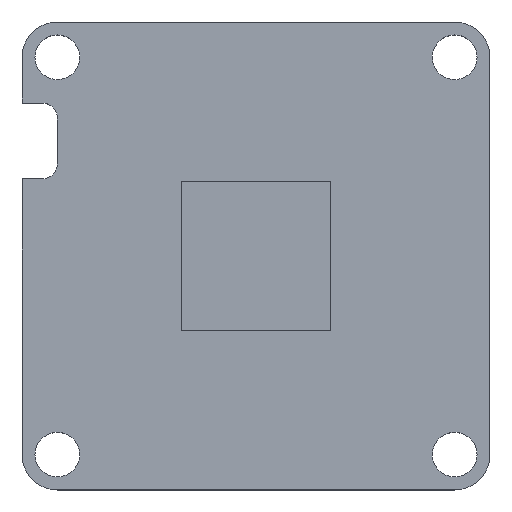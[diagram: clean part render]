
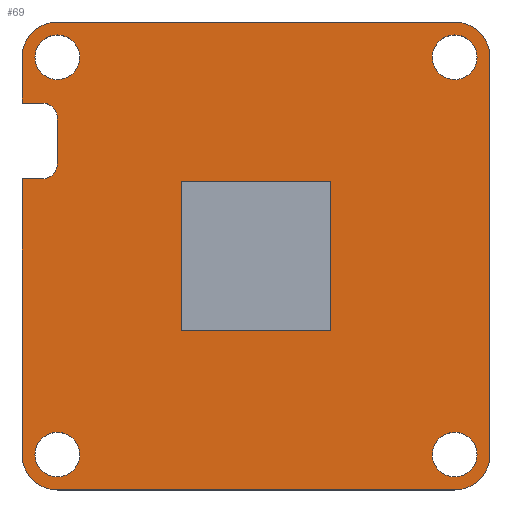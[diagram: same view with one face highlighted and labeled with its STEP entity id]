
A CAD part, top view. The second image highlights one B-rep face of the part: STEP entity #69.
In plain terms, the highlighted planar face has unit normal (0, 0, 1).
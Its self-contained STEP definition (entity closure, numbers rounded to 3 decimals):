
#69=ADVANCED_FACE('',(#149,#150,#151,#152,#153,#107),#407,.T.);
#107=FACE_OUTER_BOUND('',#165,.F.);
#149=FACE_BOUND('',#160,.F.);
#150=FACE_BOUND('',#161,.F.);
#151=FACE_BOUND('',#162,.F.);
#152=FACE_BOUND('',#163,.F.);
#153=FACE_BOUND('',#164,.F.);
#160=EDGE_LOOP('',(#232,#233));
#161=EDGE_LOOP('',(#234,#235));
#162=EDGE_LOOP('',(#236,#237));
#163=EDGE_LOOP('',(#238,#239));
#164=EDGE_LOOP('',(#240,#241,#242,#243));
#165=EDGE_LOOP('',(#244,#245,#246,#247,#248,#249,#250,#251,#252,#253,#254,
#255,#256,#257));
#232=ORIENTED_EDGE('',*,*,#473,.T.);
#233=ORIENTED_EDGE('',*,*,#471,.T.);
#234=ORIENTED_EDGE('',*,*,#481,.T.);
#235=ORIENTED_EDGE('',*,*,#479,.T.);
#236=ORIENTED_EDGE('',*,*,#485,.T.);
#237=ORIENTED_EDGE('',*,*,#483,.T.);
#238=ORIENTED_EDGE('',*,*,#477,.T.);
#239=ORIENTED_EDGE('',*,*,#475,.T.);
#240=ORIENTED_EDGE('',*,*,#469,.T.);
#241=ORIENTED_EDGE('',*,*,#468,.T.);
#242=ORIENTED_EDGE('',*,*,#467,.T.);
#243=ORIENTED_EDGE('',*,*,#466,.T.);
#244=ORIENTED_EDGE('',*,*,#500,.T.);
#245=ORIENTED_EDGE('',*,*,#513,.F.);
#246=ORIENTED_EDGE('',*,*,#512,.T.);
#247=ORIENTED_EDGE('',*,*,#511,.F.);
#248=ORIENTED_EDGE('',*,*,#510,.T.);
#249=ORIENTED_EDGE('',*,*,#509,.T.);
#250=ORIENTED_EDGE('',*,*,#508,.T.);
#251=ORIENTED_EDGE('',*,*,#507,.T.);
#252=ORIENTED_EDGE('',*,*,#506,.T.);
#253=ORIENTED_EDGE('',*,*,#505,.T.);
#254=ORIENTED_EDGE('',*,*,#504,.T.);
#255=ORIENTED_EDGE('',*,*,#503,.F.);
#256=ORIENTED_EDGE('',*,*,#502,.T.);
#257=ORIENTED_EDGE('',*,*,#501,.F.);
#407=PLANE('',#807);
#431=CIRCLE('',#779,1.5);
#433=CIRCLE('',#781,1.5);
#435=CIRCLE('',#783,1.5);
#437=CIRCLE('',#785,1.5);
#439=CIRCLE('',#787,1.5);
#441=CIRCLE('',#789,1.5);
#443=CIRCLE('',#791,1.5);
#445=CIRCLE('',#793,1.5);
#452=CIRCLE('',#800,2.37);
#453=CIRCLE('',#801,2.37);
#454=CIRCLE('',#802,1.);
#455=CIRCLE('',#803,1.);
#456=CIRCLE('',#804,2.37);
#457=CIRCLE('',#805,2.37);
#466=EDGE_CURVE('',#767,#766,#568,.T.);
#467=EDGE_CURVE('',#765,#767,#569,.T.);
#468=EDGE_CURVE('',#764,#765,#570,.T.);
#469=EDGE_CURVE('',#766,#764,#571,.T.);
#471=EDGE_CURVE('',#761,#760,#431,.T.);
#473=EDGE_CURVE('',#760,#761,#433,.T.);
#475=EDGE_CURVE('',#757,#756,#435,.T.);
#477=EDGE_CURVE('',#756,#757,#437,.T.);
#479=EDGE_CURVE('',#753,#752,#439,.T.);
#481=EDGE_CURVE('',#752,#753,#441,.T.);
#483=EDGE_CURVE('',#749,#748,#443,.T.);
#485=EDGE_CURVE('',#748,#749,#445,.T.);
#500=EDGE_CURVE('',#733,#732,#580,.T.);
#501=EDGE_CURVE('',#733,#731,#452,.T.);
#502=EDGE_CURVE('',#730,#731,#581,.T.);
#503=EDGE_CURVE('',#730,#729,#453,.T.);
#504=EDGE_CURVE('',#728,#729,#582,.T.);
#505=EDGE_CURVE('',#727,#728,#583,.T.);
#506=EDGE_CURVE('',#726,#727,#454,.T.);
#507=EDGE_CURVE('',#725,#726,#584,.T.);
#508=EDGE_CURVE('',#724,#725,#455,.T.);
#509=EDGE_CURVE('',#723,#724,#585,.T.);
#510=EDGE_CURVE('',#722,#723,#586,.T.);
#511=EDGE_CURVE('',#722,#721,#456,.T.);
#512=EDGE_CURVE('',#720,#721,#587,.T.);
#513=EDGE_CURVE('',#720,#732,#457,.T.);
#568=LINE('',#1132,#642);
#569=LINE('',#1133,#643);
#570=LINE('',#1134,#644);
#571=LINE('',#1135,#645);
#580=LINE('',#1166,#654);
#581=LINE('',#1168,#655);
#582=LINE('',#1170,#656);
#583=LINE('',#1171,#657);
#584=LINE('',#1173,#658);
#585=LINE('',#1175,#659);
#586=LINE('',#1176,#660);
#587=LINE('',#1178,#661);
#642=VECTOR('',#855,10.);
#643=VECTOR('',#856,10.);
#644=VECTOR('',#857,10.);
#645=VECTOR('',#858,10.);
#654=VECTOR('',#911,26.66);
#655=VECTOR('',#914,26.66);
#656=VECTOR('',#917,3.07);
#657=VECTOR('',#918,1.37);
#658=VECTOR('',#921,3.08);
#659=VECTOR('',#924,1.37);
#660=VECTOR('',#925,18.51);
#661=VECTOR('',#928,26.66);
#720=VERTEX_POINT('',#1068);
#721=VERTEX_POINT('',#1069);
#722=VERTEX_POINT('',#1070);
#723=VERTEX_POINT('',#1071);
#724=VERTEX_POINT('',#1072);
#725=VERTEX_POINT('',#1073);
#726=VERTEX_POINT('',#1074);
#727=VERTEX_POINT('',#1075);
#728=VERTEX_POINT('',#1076);
#729=VERTEX_POINT('',#1077);
#730=VERTEX_POINT('',#1078);
#731=VERTEX_POINT('',#1079);
#732=VERTEX_POINT('',#1080);
#733=VERTEX_POINT('',#1081);
#748=VERTEX_POINT('',#1096);
#749=VERTEX_POINT('',#1097);
#752=VERTEX_POINT('',#1100);
#753=VERTEX_POINT('',#1101);
#756=VERTEX_POINT('',#1104);
#757=VERTEX_POINT('',#1105);
#760=VERTEX_POINT('',#1108);
#761=VERTEX_POINT('',#1109);
#764=VERTEX_POINT('',#1112);
#765=VERTEX_POINT('',#1113);
#766=VERTEX_POINT('',#1114);
#767=VERTEX_POINT('',#1115);
#779=AXIS2_PLACEMENT_3D('',#1137,#861,#862);
#781=AXIS2_PLACEMENT_3D('',#1139,#865,#866);
#783=AXIS2_PLACEMENT_3D('',#1141,#869,#870);
#785=AXIS2_PLACEMENT_3D('',#1143,#873,#874);
#787=AXIS2_PLACEMENT_3D('',#1145,#877,#878);
#789=AXIS2_PLACEMENT_3D('',#1147,#881,#882);
#791=AXIS2_PLACEMENT_3D('',#1149,#885,#886);
#793=AXIS2_PLACEMENT_3D('',#1151,#889,#890);
#800=AXIS2_PLACEMENT_3D('',#1167,#912,#913);
#801=AXIS2_PLACEMENT_3D('',#1169,#915,#916);
#802=AXIS2_PLACEMENT_3D('',#1172,#919,#920);
#803=AXIS2_PLACEMENT_3D('',#1174,#922,#923);
#804=AXIS2_PLACEMENT_3D('',#1177,#926,#927);
#805=AXIS2_PLACEMENT_3D('',#1179,#929,#930);
#807=AXIS2_PLACEMENT_3D('',#1227,#979,#980);
#855=DIRECTION('',(1.,0.,0.));
#856=DIRECTION('',(0.,-1.,0.));
#857=DIRECTION('',(-1.,0.,0.));
#858=DIRECTION('',(0.,1.,0.));
#861=DIRECTION('',(0.,0.,1.));
#862=DIRECTION('',(1.,0.,0.));
#865=DIRECTION('',(0.,0.,1.));
#866=DIRECTION('',(-1.,0.,0.));
#869=DIRECTION('',(0.,0.,1.));
#870=DIRECTION('',(1.,0.,0.));
#873=DIRECTION('',(0.,0.,1.));
#874=DIRECTION('',(-1.,0.,0.));
#877=DIRECTION('',(0.,0.,1.));
#878=DIRECTION('',(1.,0.,0.));
#881=DIRECTION('',(0.,0.,1.));
#882=DIRECTION('',(-1.,0.,0.));
#885=DIRECTION('',(0.,0.,1.));
#886=DIRECTION('',(1.,0.,0.));
#889=DIRECTION('',(0.,0.,1.));
#890=DIRECTION('',(-1.,0.,0.));
#911=DIRECTION('',(0.,-1.,0.));
#912=DIRECTION('',(0.,0.,1.));
#913=DIRECTION('',(1.,0.,0.));
#914=DIRECTION('',(1.,0.,0.));
#915=DIRECTION('',(0.,0.,1.));
#916=DIRECTION('',(0.,1.,0.));
#917=DIRECTION('',(0.,1.,0.));
#918=DIRECTION('',(-1.,0.,0.));
#919=DIRECTION('',(0.,0.,1.));
#920=DIRECTION('',(1.,0.,0.));
#921=DIRECTION('',(0.,1.,0.));
#922=DIRECTION('',(0.,0.,1.));
#923=DIRECTION('',(0.,-1.,0.));
#924=DIRECTION('',(1.,0.,0.));
#925=DIRECTION('',(0.,1.,0.));
#926=DIRECTION('',(0.,0.,1.));
#927=DIRECTION('',(-1.,0.,0.));
#928=DIRECTION('',(-1.,0.,0.));
#929=DIRECTION('',(0.,0.,1.));
#930=DIRECTION('',(0.,-1.,0.));
#979=DIRECTION('',(0.,0.,1.));
#980=DIRECTION('',(1.,0.,0.));
#1068=CARTESIAN_POINT('',(18.087,-16.145,31.493));
#1069=CARTESIAN_POINT('',(-8.573,-16.145,31.493));
#1070=CARTESIAN_POINT('',(-10.943,-13.775,31.493));
#1071=CARTESIAN_POINT('',(-10.943,4.735,31.493));
#1072=CARTESIAN_POINT('',(-9.573,4.735,31.493));
#1073=CARTESIAN_POINT('',(-8.573,5.735,31.493));
#1074=CARTESIAN_POINT('',(-8.573,8.815,31.493));
#1075=CARTESIAN_POINT('',(-9.573,9.815,31.493));
#1076=CARTESIAN_POINT('',(-10.943,9.815,31.493));
#1077=CARTESIAN_POINT('',(-10.943,12.885,31.493));
#1078=CARTESIAN_POINT('',(-8.573,15.255,31.493));
#1079=CARTESIAN_POINT('',(18.087,15.255,31.493));
#1080=CARTESIAN_POINT('',(20.457,-13.775,31.493));
#1081=CARTESIAN_POINT('',(20.457,12.885,31.493));
#1096=CARTESIAN_POINT('',(16.587,12.885,31.493));
#1097=CARTESIAN_POINT('',(19.587,12.885,31.493));
#1100=CARTESIAN_POINT('',(-10.073,12.885,31.493));
#1101=CARTESIAN_POINT('',(-7.073,12.885,31.493));
#1104=CARTESIAN_POINT('',(-10.073,-13.776,31.493));
#1105=CARTESIAN_POINT('',(-7.073,-13.776,31.493));
#1108=CARTESIAN_POINT('',(16.587,-13.776,31.493));
#1109=CARTESIAN_POINT('',(19.587,-13.776,31.493));
#1112=CARTESIAN_POINT('',(9.757,4.555,31.493));
#1113=CARTESIAN_POINT('',(-0.243,4.555,31.493));
#1114=CARTESIAN_POINT('',(9.757,-5.445,31.493));
#1115=CARTESIAN_POINT('',(-0.243,-5.445,31.493));
#1132=CARTESIAN_POINT('',(-0.243,-5.445,31.493));
#1133=CARTESIAN_POINT('',(-0.243,4.555,31.493));
#1134=CARTESIAN_POINT('',(9.757,4.555,31.493));
#1135=CARTESIAN_POINT('',(9.757,-5.445,31.493));
#1137=CARTESIAN_POINT('',(18.087,-13.776,31.493));
#1139=CARTESIAN_POINT('',(18.087,-13.776,31.493));
#1141=CARTESIAN_POINT('',(-8.573,-13.776,31.493));
#1143=CARTESIAN_POINT('',(-8.573,-13.776,31.493));
#1145=CARTESIAN_POINT('',(-8.573,12.885,31.493));
#1147=CARTESIAN_POINT('',(-8.573,12.885,31.493));
#1149=CARTESIAN_POINT('',(18.087,12.885,31.493));
#1151=CARTESIAN_POINT('',(18.087,12.885,31.493));
#1166=CARTESIAN_POINT('',(20.457,12.885,31.493));
#1167=CARTESIAN_POINT('',(18.087,12.885,31.493));
#1168=CARTESIAN_POINT('',(-8.573,15.255,31.493));
#1169=CARTESIAN_POINT('',(-8.573,12.885,31.493));
#1170=CARTESIAN_POINT('',(-10.943,9.815,31.493));
#1171=CARTESIAN_POINT('',(-9.573,9.815,31.493));
#1172=CARTESIAN_POINT('',(-9.573,8.815,31.493));
#1173=CARTESIAN_POINT('',(-8.573,5.735,31.493));
#1174=CARTESIAN_POINT('',(-9.573,5.735,31.493));
#1175=CARTESIAN_POINT('',(-10.943,4.735,31.493));
#1176=CARTESIAN_POINT('',(-10.943,-13.775,31.493));
#1177=CARTESIAN_POINT('',(-8.573,-13.775,31.493));
#1178=CARTESIAN_POINT('',(18.087,-16.145,31.493));
#1179=CARTESIAN_POINT('',(18.087,-13.775,31.493));
#1227=CARTESIAN_POINT('',(-11.26,-16.462,31.493));
